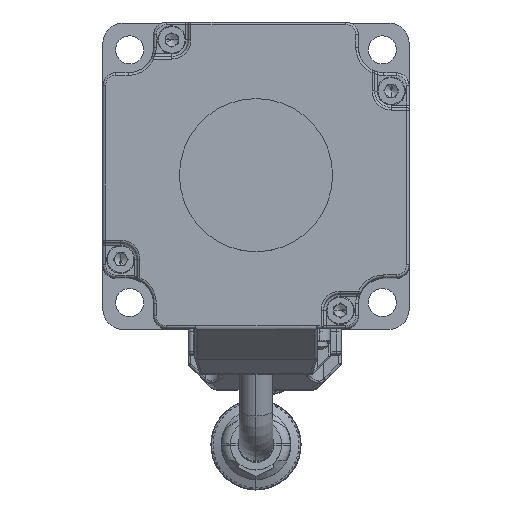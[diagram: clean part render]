
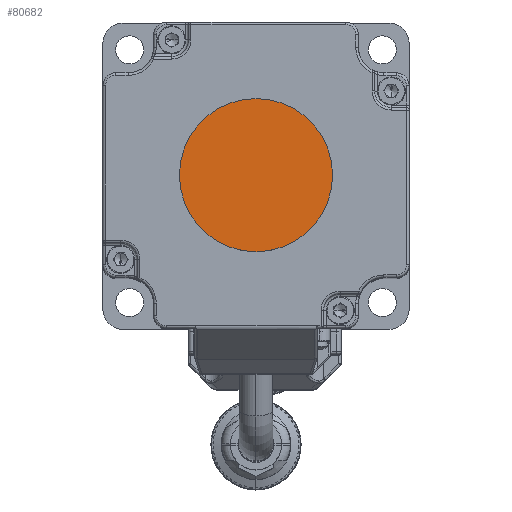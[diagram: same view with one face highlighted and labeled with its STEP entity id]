
A CAD part, top view. The second image highlights one B-rep face of the part: STEP entity #80682.
In plain terms, the highlighted planar face has unit normal (0, 0, 1) as drawn and (0, 0, -1) by its records, which use the part's own axes.
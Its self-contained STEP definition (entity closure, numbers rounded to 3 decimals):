
#3793 = PLANE ( 'NONE',  #139436 ) ;
#5262 = CARTESIAN_POINT ( 'NONE',  ( -15., 0., 0.3 ) ) ;
#31714 = FACE_OUTER_BOUND ( 'NONE', #177415, .T. ) ;
#33324 = EDGE_CURVE ( 'NONE', #212440, #118824, #104587, .T. ) ;
#37469 = DIRECTION ( 'NONE',  ( 0., 0., -1. ) ) ;
#54344 = CARTESIAN_POINT ( 'NONE',  ( 0., 0., 0.3 ) ) ;
#55804 = CARTESIAN_POINT ( 'NONE',  ( 0., 0., 0.3 ) ) ;
#58060 = DIRECTION ( 'NONE',  ( 0., 0., -1. ) ) ;
#71212 = DIRECTION ( 'NONE',  ( -1., 0., 0. ) ) ;
#80682 = ADVANCED_FACE ( 'NONE', ( #31714 ), #3793, .T. ) ;
#104587 = CIRCLE ( 'NONE', #185897, 15. ) ;
#108737 = DIRECTION ( 'NONE',  ( -1., 0., 0. ) ) ;
#115829 = ORIENTED_EDGE ( 'NONE', *, *, #128825, .T. ) ;
#118824 = VERTEX_POINT ( 'NONE', #171469 ) ;
#123833 = DIRECTION ( 'NONE',  ( -1., 0., 0. ) ) ;
#128825 = EDGE_CURVE ( 'NONE', #118824, #212440, #196590, .T. ) ;
#139436 = AXIS2_PLACEMENT_3D ( 'NONE', #54344, #37469, #71212 ) ;
#171469 = CARTESIAN_POINT ( 'NONE',  ( 15., 0., 0.3 ) ) ;
#177415 = EDGE_LOOP ( 'NONE', ( #220984, #115829 ) ) ;
#185897 = AXIS2_PLACEMENT_3D ( 'NONE', #196292, #213875, #123833 ) ;
#196292 = CARTESIAN_POINT ( 'NONE',  ( 0., 0., 0.3 ) ) ;
#196590 = CIRCLE ( 'NONE', #201310, 15. ) ;
#201310 = AXIS2_PLACEMENT_3D ( 'NONE', #55804, #58060, #108737 ) ;
#212440 = VERTEX_POINT ( 'NONE', #5262 ) ;
#213875 = DIRECTION ( 'NONE',  ( 0., 0., -1. ) ) ;
#220984 = ORIENTED_EDGE ( 'NONE', *, *, #33324, .T. ) ;
